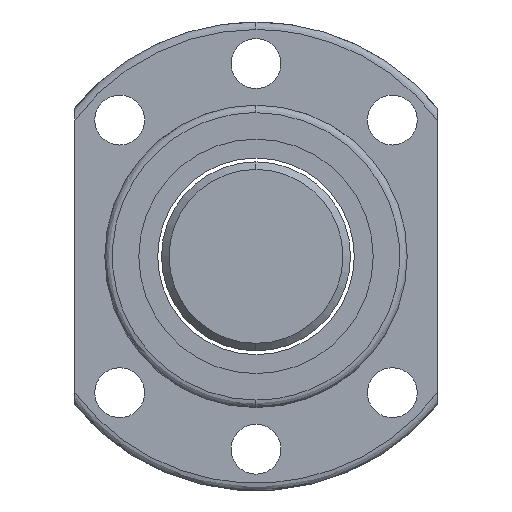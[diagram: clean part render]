
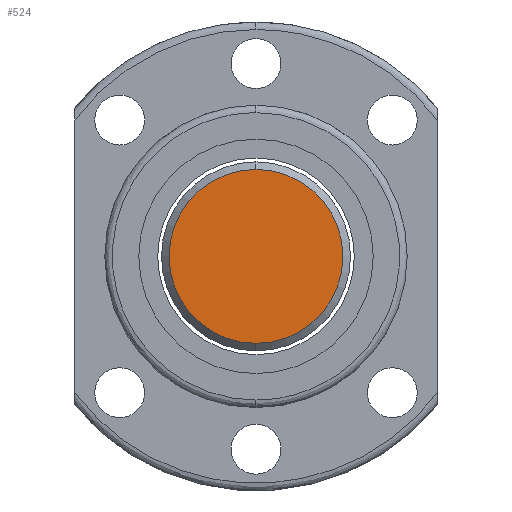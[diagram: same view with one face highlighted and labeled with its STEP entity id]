
A CAD part, left-side view. The second image highlights one B-rep face of the part: STEP entity #524.
In plain terms, the highlighted planar face has unit normal (-1, 0, 0).
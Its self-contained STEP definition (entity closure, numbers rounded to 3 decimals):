
#459 = EDGE_CURVE ( 'NONE', #551, #460, #1293, .T. ) ;
#460 = VERTEX_POINT ( 'NONE', #1412 ) ;
#524 = ADVANCED_FACE ( 'NONE', ( #1613 ), #1725, .F. ) ;
#530 = ORIENTED_EDGE ( 'NONE', *, *, #459, .F. ) ;
#549 = ORIENTED_EDGE ( 'NONE', *, *, #610, .F. ) ;
#551 = VERTEX_POINT ( 'NONE', #1786 ) ;
#588 = EDGE_LOOP ( 'NONE', ( #530, #549 ) ) ;
#610 = EDGE_CURVE ( 'NONE', #460, #551, #1836, .T. ) ;
#1271 = CARTESIAN_POINT ( 'NONE',  ( -131., 0., 0. ) ) ;
#1273 = DIRECTION ( 'NONE',  ( 0., 0., -1. ) ) ;
#1293 = CIRCLE ( 'NONE', #1304, 11.5 ) ;
#1303 = DIRECTION ( 'NONE',  ( 1., 0., 0. ) ) ;
#1304 = AXIS2_PLACEMENT_3D ( 'NONE', #1271, #1303, #1273 ) ;
#1412 = CARTESIAN_POINT ( 'NONE',  ( -131., 0., 11.5 ) ) ;
#1607 = DIRECTION ( 'NONE',  ( 0., 0., -1. ) ) ;
#1613 = FACE_OUTER_BOUND ( 'NONE', #588, .T. ) ;
#1634 = AXIS2_PLACEMENT_3D ( 'NONE', #1709, #1708, #1607 ) ;
#1708 = DIRECTION ( 'NONE',  ( 1., 0., 0. ) ) ;
#1709 = CARTESIAN_POINT ( 'NONE',  ( -131., 6.25, 0. ) ) ;
#1725 = PLANE ( 'NONE',  #1634 ) ;
#1786 = CARTESIAN_POINT ( 'NONE',  ( -131., 0., -11.5 ) ) ;
#1836 = CIRCLE ( 'NONE', #1868, 11.5 ) ;
#1865 = DIRECTION ( 'NONE',  ( 0., 0., -1. ) ) ;
#1866 = DIRECTION ( 'NONE',  ( 1., 0., 0. ) ) ;
#1867 = CARTESIAN_POINT ( 'NONE',  ( -131., 0., 0. ) ) ;
#1868 = AXIS2_PLACEMENT_3D ( 'NONE', #1867, #1866, #1865 ) ;
